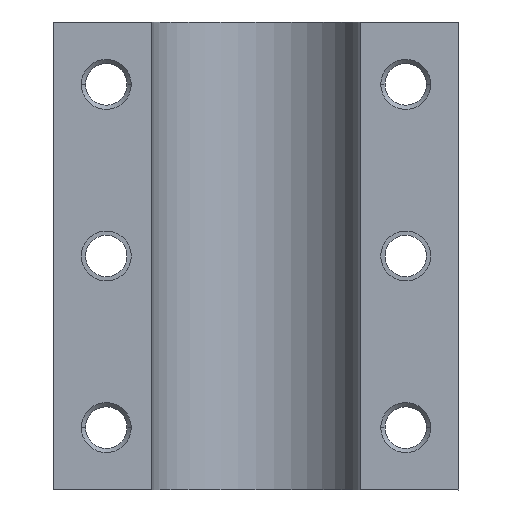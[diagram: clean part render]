
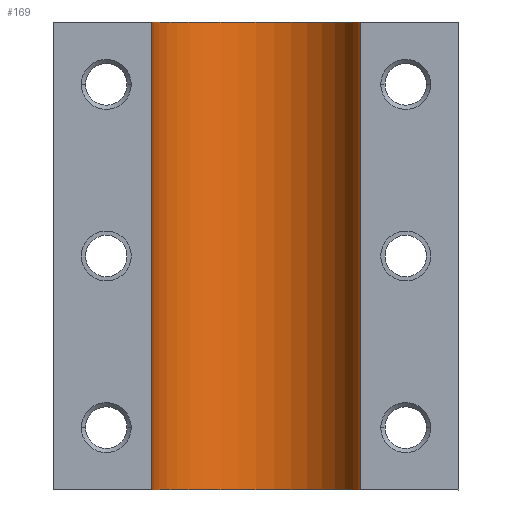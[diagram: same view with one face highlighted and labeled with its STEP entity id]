
A CAD part, left-side view. The second image highlights one B-rep face of the part: STEP entity #169.
In plain terms, the highlighted cylindrical face has radius 16.7 mm (diameter 33.4 mm), a partial arc.
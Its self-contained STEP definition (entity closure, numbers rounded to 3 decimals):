
#63=CYLINDRICAL_SURFACE('',#1556,16.7);
#169=ADVANCED_FACE('',(#231),#63,.F.);
#231=FACE_OUTER_BOUND('',#323,.F.);
#323=EDGE_LOOP('',(#440,#441,#442,#443));
#440=ORIENTED_EDGE('',*,*,#1240,.F.);
#441=ORIENTED_EDGE('',*,*,#1261,.F.);
#442=ORIENTED_EDGE('',*,*,#1239,.T.);
#443=ORIENTED_EDGE('',*,*,#1262,.F.);
#1099=LINE('',#2069,#1163);
#1100=LINE('',#2070,#1164);
#1163=VECTOR('',#1694,75.);
#1164=VECTOR('',#1695,75.);
#1239=EDGE_CURVE('',#1456,#1458,#1099,.T.);
#1240=EDGE_CURVE('',#1460,#1455,#1100,.T.);
#1261=EDGE_CURVE('',#1456,#1460,#1387,.T.);
#1262=EDGE_CURVE('',#1455,#1458,#1388,.T.);
#1387=CIRCLE('',#1547,16.7);
#1388=CIRCLE('',#1548,16.7);
#1455=VERTEX_POINT('',#2037);
#1456=VERTEX_POINT('',#2038);
#1458=VERTEX_POINT('',#2040);
#1460=VERTEX_POINT('',#2042);
#1547=AXIS2_PLACEMENT_3D('',#2091,#1728,#1729);
#1548=AXIS2_PLACEMENT_3D('',#2092,#1730,#1731);
#1556=AXIS2_PLACEMENT_3D('',#2116,#1762,#1763);
#1694=DIRECTION('',(0.,0.,1.));
#1695=DIRECTION('',(0.,0.,1.));
#1728=DIRECTION('',(0.,0.,-1.));
#1729=DIRECTION('',(0.03,1.,0.));
#1730=DIRECTION('',(0.,0.,1.));
#1731=DIRECTION('',(0.03,-1.,0.));
#1762=DIRECTION('',(0.,0.,-1.));
#1763=DIRECTION('',(0.,1.,0.));
#2037=CARTESIAN_POINT('',(1123.375,402.56,1266.874));
#2038=CARTESIAN_POINT('',(1123.375,435.945,1191.874));
#2040=CARTESIAN_POINT('',(1123.375,435.945,1266.874));
#2042=CARTESIAN_POINT('',(1123.375,402.56,1191.874));
#2069=CARTESIAN_POINT('',(1123.375,435.945,1191.874));
#2070=CARTESIAN_POINT('',(1123.375,402.56,1191.874));
#2091=CARTESIAN_POINT('',(1122.875,419.252,1191.874));
#2092=CARTESIAN_POINT('',(1122.875,419.252,1266.874));
#2116=CARTESIAN_POINT('',(1122.875,419.252,1186.874));
